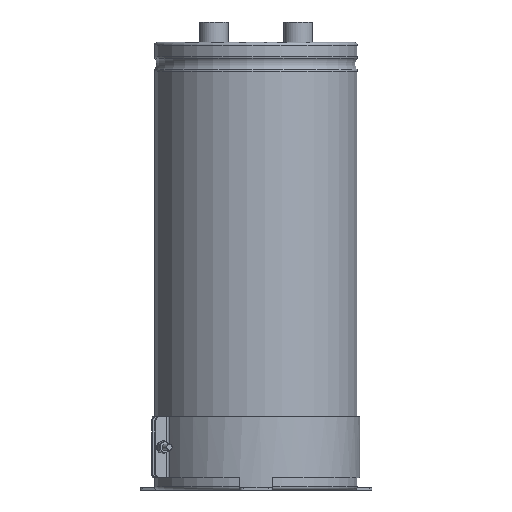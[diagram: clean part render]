
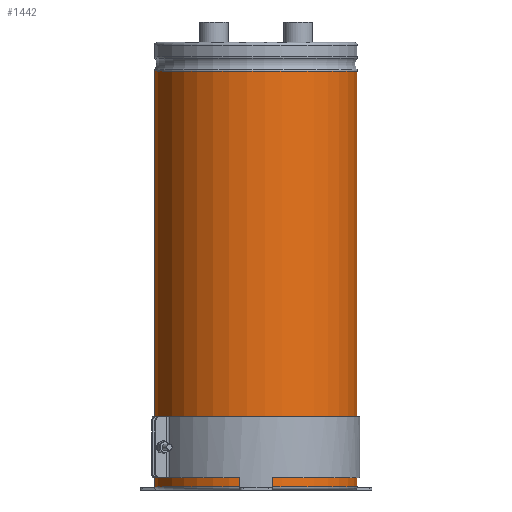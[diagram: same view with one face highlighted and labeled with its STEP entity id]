
A CAD part, left-side view. The second image highlights one B-rep face of the part: STEP entity #1442.
In plain terms, the highlighted cylindrical face has radius 50 mm (diameter 100 mm), a partial arc.
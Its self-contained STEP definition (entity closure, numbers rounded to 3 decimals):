
#518=LINE('',#7579,#732);
#519=LINE('',#7583,#733);
#732=VECTOR('',#5574,1.);
#733=VECTOR('',#5577,1.);
#1042=FACE_OUTER_BOUND('',#1831,.T.);
#1161=CYLINDRICAL_SURFACE('',#4741,50.);
#1442=ADVANCED_FACE('',(#1042),#1161,.T.);
#1831=EDGE_LOOP('',(#2551,#2552,#2553,#2554));
#2551=ORIENTED_EDGE('',*,*,#3892,.T.);
#2552=ORIENTED_EDGE('',*,*,#3893,.T.);
#2553=ORIENTED_EDGE('',*,*,#3894,.F.);
#2554=ORIENTED_EDGE('',*,*,#3895,.F.);
#3386=VERTEX_POINT('',#7572);
#3388=VERTEX_POINT('',#7576);
#3389=VERTEX_POINT('',#7580);
#3390=VERTEX_POINT('',#7582);
#3892=EDGE_CURVE('',#3386,#3388,#4335,.T.);
#3893=EDGE_CURVE('',#3388,#3389,#518,.T.);
#3894=EDGE_CURVE('',#3390,#3389,#4336,.T.);
#3895=EDGE_CURVE('',#3386,#3390,#519,.T.);
#4335=CIRCLE('',#4738,50.);
#4336=CIRCLE('',#4740,50.);
#4738=AXIS2_PLACEMENT_3D('',#7577,#5570,#5571);
#4740=AXIS2_PLACEMENT_3D('',#7581,#5575,#5576);
#4741=AXIS2_PLACEMENT_3D('',#7584,#5578,#5579);
#5570=DIRECTION('',(0.,0.,-1.));
#5571=DIRECTION('',(0.,1.,0.));
#5574=DIRECTION('',(0.,0.,-1.));
#5575=DIRECTION('',(0.,0.,-1.));
#5576=DIRECTION('',(0.,1.,0.));
#5577=DIRECTION('',(0.,0.,-1.));
#5578=DIRECTION('',(0.,0.,-1.));
#5579=DIRECTION('',(0.,1.,0.));
#7572=CARTESIAN_POINT('',(4.01,49.839,205.9));
#7576=CARTESIAN_POINT('',(-4.01,49.839,205.9));
#7577=CARTESIAN_POINT('',(0.,0.,205.9));
#7579=CARTESIAN_POINT('',(-4.01,49.839,205.9));
#7580=CARTESIAN_POINT('',(-4.01,49.839,1.5));
#7581=CARTESIAN_POINT('',(0.,0.,1.5));
#7582=CARTESIAN_POINT('',(4.01,49.839,1.5));
#7583=CARTESIAN_POINT('',(4.01,49.839,205.9));
#7584=CARTESIAN_POINT('',(0.,0.,0.));
